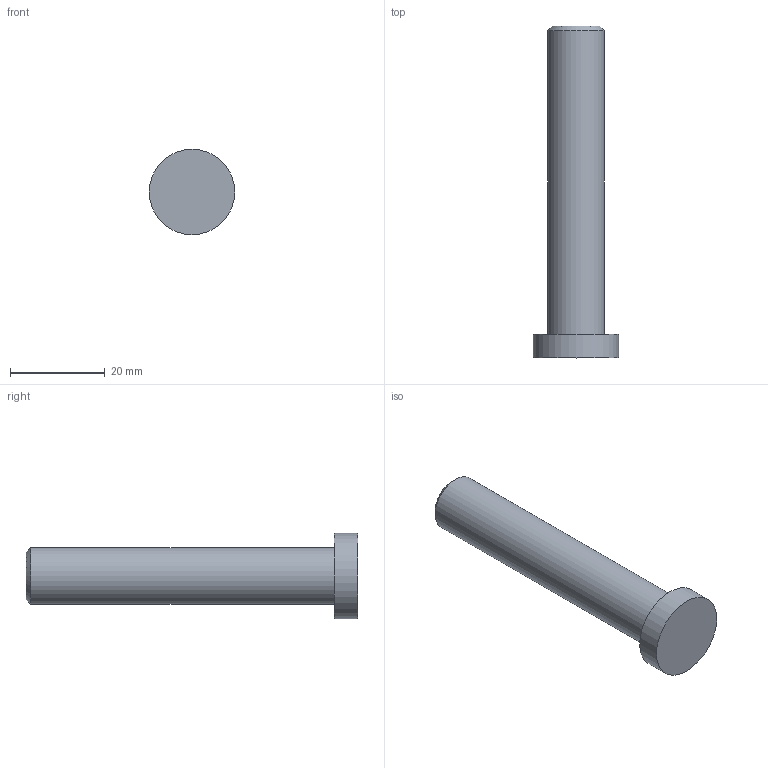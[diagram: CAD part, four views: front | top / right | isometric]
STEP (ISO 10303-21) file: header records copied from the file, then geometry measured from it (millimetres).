
FILE_DESCRIPTION(/* description */ (''),/* implementation_level */ '2;1');
FILE_NAME(/* name */ '',/* time_stamp */ '2026-05-29T16:34:41+09:00',/* author */ ('jhkim'),/* organization */ (''),/* preprocessor_version */ 'ST-DEVELOPER v20.1',/* originating_system */ 'Autodesk Inventor 2027',/* authorisation */ '');
FILE_SCHEMA (('AUTOMOTIVE_DESIGN { 1 0 10303 214 3 1 1 }'));
Length unit declared in the file: millimetre
Products named in the file (1): 슬라이더
Bounding box: 18 x 70 x 18 mm (x, y, z)
Volume: 8545.8 mm3; surface area: 3302 mm2
Topology: 1 solids, 1 shells, 9 faces, 16 edges, 10 vertices
Faces by surface type: cone 3, cylinder 3, plane 3
Full cylindrical faces by diameter (mm): 2.459 x1, 12 x1, 18 x1
Entity records: 261 total; most frequent: DIRECTION 44, CARTESIAN_POINT 35, ORIENTED_EDGE 30, AXIS2_PLACEMENT_3D 19, EDGE_CURVE 15, EDGE_LOOP 11, VERTEX_POINT 10, FACE_OUTER_BOUND 9
